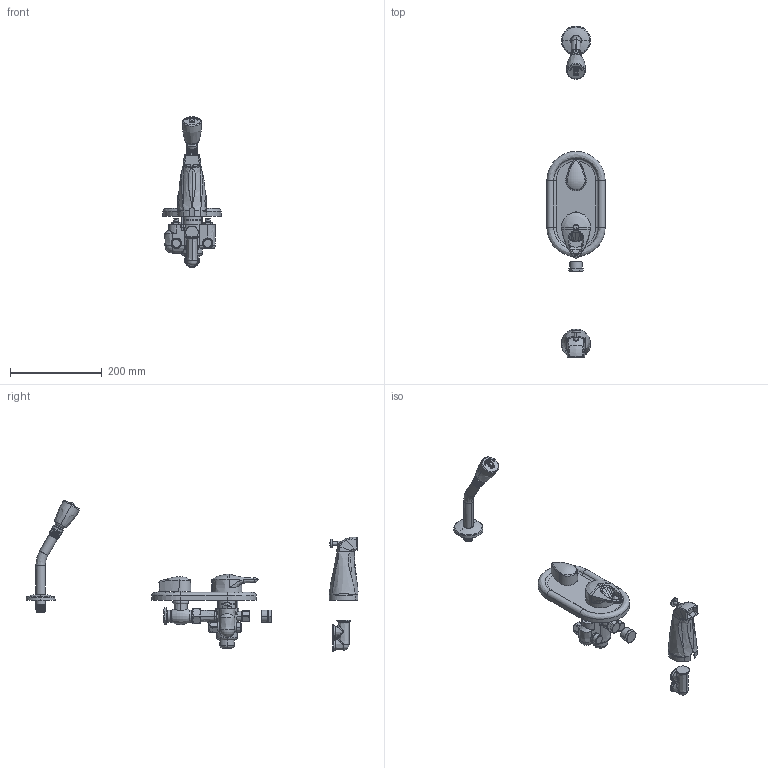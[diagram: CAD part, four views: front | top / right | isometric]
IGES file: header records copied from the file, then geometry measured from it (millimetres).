
Start section:  PTC IGES file: 2500-cp_REV070122.igs
Global section: file name: 2500-cp_REV070122.igs; native system: Creo Parametric by PTC Inc.; preprocessor: 2021184; author: rodjo; organization: Unknown; date: 20220701.104758; units: inch
Bounding box: 127 x 723.34 x 328.62 mm (x, y, z)
Surface area: 247606.4 mm2 (no closed solid volume)
Topology: 0 solids, 0 shells, 824 faces, 8154 edges, 11213 vertices
Faces by surface type: revolution 417, bspline 396, extrusion 11
